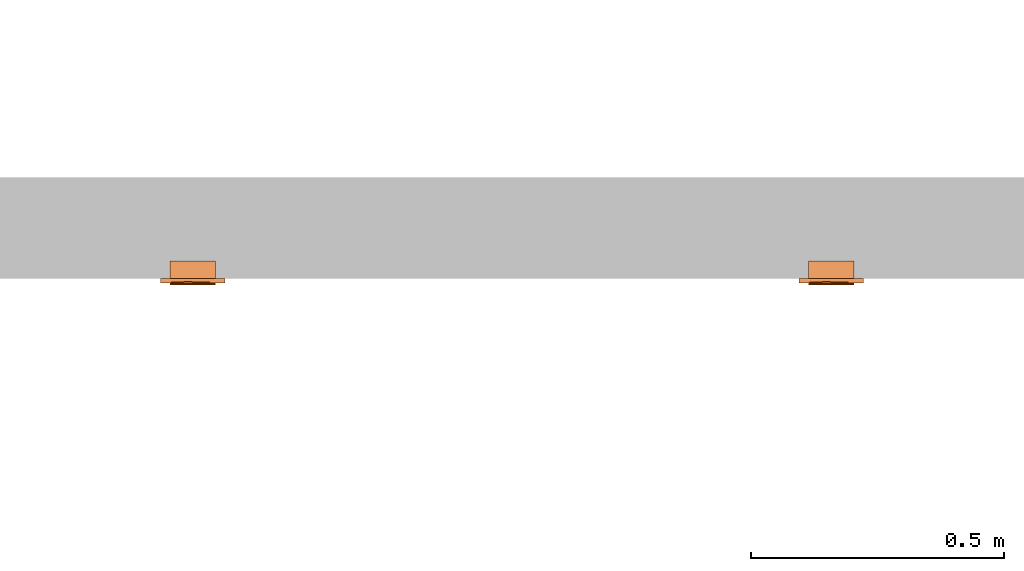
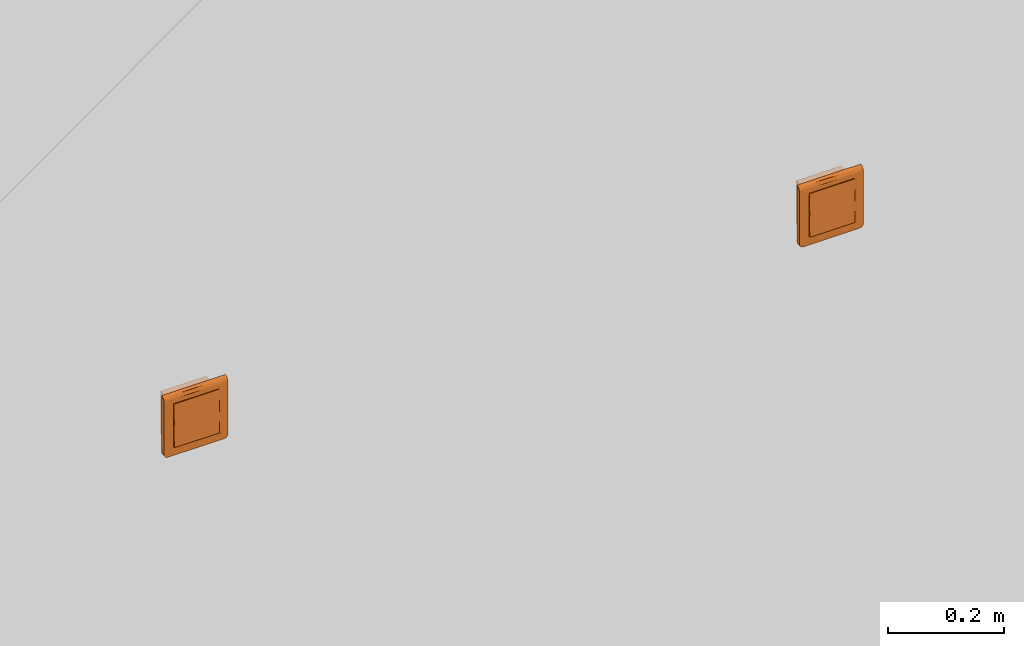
# One storey, part 177 of 197: 2 proxies.
"""IFC2X3 building model written with IfcOpenShell, lengths in metres."""

from ifc_helpers import new_model, entity, si_unit, converted_unit, direction, frame, origin, place, context, subcontext, project, spatial, faceted_brep, source, transform, mapped, material, material_list, type_object, type_shapes, element, save


model = new_model("IFC2X3")

# Units and contexts
model_context = context("Model", 3, precision=1e-05, world=origin(), true_north=direction((6.123031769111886e-17, 1.0)))
body_context = subcontext(model_context, "Body", "Model", "MODEL_VIEW")
ifc_project = project(units=[si_unit("LENGTHUNIT", "METRE"), converted_unit("PLANEANGLEUNIT", "DEGREE", entity("IfcPlaneAngleMeasure", 0.017453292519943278), si_unit("PLANEANGLEUNIT", "RADIAN"), dimensions=[0, 0, 0, 0, 0, 0, 0]), si_unit("AREAUNIT", "SQUARE_METRE")], contexts=[model_context])

# Site, building, storey
site_placement = place(None, origin())
site = spatial("IfcSite", under=ifc_project, at=site_placement, Name="Default", CompositionType="ELEMENT")
building_placement = place(site_placement, origin())
building = spatial("IfcBuilding", under=site, at=building_placement, CompositionType="ELEMENT")
storey_placement = place(building_placement, origin())
storey = spatial("IfcBuildingStorey", under=building, at=storey_placement, Name="Niveau 0", CompositionType="ELEMENT", Elevation=0.0)

# Proxies
ifc_material_1 = material(Name="<Unnamed>")
ifc_material_2 = material(Name="BETCE-DOIGT-BLANC")
ifc_material_3 = material(Name="BETCE-ENJOLIVEUR-BLANC")
ifc_material_list = material_list([ifc_material_1, ifc_material_2, ifc_material_3])
building_element_proxy_type_1 = type_object("IfcBuildingElementProxyType", Name="Tableau commande 2x4 modules encastré:7 BP + 1 SA", PredefinedType="NOTDEFINED", material=ifc_material_list)
shared_shape_1 = source(origin(), body_context, "Body", "Brep", [
    faceted_brep([(0.04499999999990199, 0.0, 0.0), (0.04499999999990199, 0.03499999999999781, 0.0), (0.022499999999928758, 0.03499999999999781, 0.0), (0.022499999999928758, 0.0, 0.0), (0.04499999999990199, 0.0, -0.045000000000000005), (0.022499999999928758, 0.0, -0.045000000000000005), (0.022499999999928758, 0.03499999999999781, -0.045000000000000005), (0.04499999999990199, 0.03499999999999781, -0.045000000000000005)], [[[0, 1, 2, 3]], [[4, 5, 6, 7]], [[1, 0, 4, 7]], [[2, 1, 7, 6]], [[3, 2, 6, 5]], [[0, 3, 5, 4]]]),
    faceted_brep([(0.04499999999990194, 0.0, 0.045000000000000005), (0.04499999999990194, 0.03499999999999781, 0.045000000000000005), (0.022499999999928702, 0.03499999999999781, 0.045000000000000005), (0.022499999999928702, 0.0, 0.045000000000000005), (0.04499999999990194, 0.0, 0.0), (0.022499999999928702, 0.0, 0.0), (0.022499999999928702, 0.03499999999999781, 0.0), (0.04499999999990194, 0.03499999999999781, 0.0)], [[[0, 1, 2, 3]], [[4, 5, 6, 7]], [[1, 0, 4, 7]], [[2, 1, 7, 6]], [[3, 2, 6, 5]], [[0, 3, 5, 4]]]),
    faceted_brep([(0.022499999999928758, 0.0, 0.0), (0.022499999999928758, 0.03499999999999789, 0.0), (0.0, 0.03499999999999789, 0.0), (0.0, 0.0, 0.0), (0.022499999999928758, 0.0, -0.045000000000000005), (0.0, 0.0, -0.045000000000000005), (0.0, 0.03499999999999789, -0.045000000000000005), (0.022499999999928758, 0.03499999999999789, -0.045000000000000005)], [[[0, 1, 2, 3]], [[4, 5, 6, 7]], [[1, 0, 4, 7]], [[2, 1, 7, 6]], [[3, 2, 6, 5]], [[0, 3, 5, 4]]]),
    faceted_brep([(0.0224999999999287, 0.0, 0.045000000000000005), (0.0224999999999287, 0.03499999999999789, 0.045000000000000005), (0.0, 0.03499999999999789, 0.045000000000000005), (0.0, 0.0, 0.045000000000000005), (0.0224999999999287, 0.0, 0.0), (0.0, 0.0, 0.0), (0.0, 0.03499999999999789, 0.0), (0.0224999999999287, 0.03499999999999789, 0.0)], [[[0, 1, 2, 3]], [[4, 5, 6, 7]], [[1, 0, 4, 7]], [[2, 1, 7, 6]], [[3, 2, 6, 5]], [[0, 3, 5, 4]]]),
    faceted_brep([(0.0, 0.0, 0.0), (0.0, 0.034999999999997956, 0.0), (-0.022500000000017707, 0.034999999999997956, 0.0), (-0.022500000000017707, 0.0, 0.0), (0.0, 0.0, -0.045000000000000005), (-0.022500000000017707, 0.0, -0.045000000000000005), (-0.022500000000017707, 0.034999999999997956, -0.045000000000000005), (0.0, 0.034999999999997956, -0.045000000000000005)], [[[0, 1, 2, 3]], [[4, 5, 6, 7]], [[1, 0, 4, 7]], [[2, 1, 7, 6]], [[3, 2, 6, 5]], [[0, 3, 5, 4]]]),
    faceted_brep([(0.0, 0.0, 0.045000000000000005), (0.0, 0.034999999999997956, 0.045000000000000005), (-0.022500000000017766, 0.034999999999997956, 0.045000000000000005), (-0.022500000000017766, 0.0, 0.045000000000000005), (0.0, 0.0, 0.0), (-0.022500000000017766, 0.0, 0.0), (-0.022500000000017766, 0.034999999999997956, 0.0), (0.0, 0.034999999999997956, 0.0)], [[[0, 1, 2, 3]], [[4, 5, 6, 7]], [[1, 0, 4, 7]], [[2, 1, 7, 6]], [[3, 2, 6, 5]], [[0, 3, 5, 4]]]),
    faceted_brep([(-0.02250000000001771, 0.0, 0.0), (-0.02250000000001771, 0.034999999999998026, 0.0), (-0.044999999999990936, 0.034999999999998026, 0.0), (-0.044999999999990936, 0.0, 0.0), (-0.02250000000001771, 0.0, -0.045000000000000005), (-0.044999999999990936, 0.0, -0.045000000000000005), (-0.044999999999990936, 0.034999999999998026, -0.045000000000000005), (-0.02250000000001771, 0.034999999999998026, -0.045000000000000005)], [[[0, 1, 2, 3]], [[4, 5, 6, 7]], [[1, 0, 4, 7]], [[2, 1, 7, 6]], [[3, 2, 6, 5]], [[0, 3, 5, 4]]]),
    faceted_brep([(-0.022500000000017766, 0.0, 0.045000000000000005), (-0.022500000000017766, 0.034999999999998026, 0.045000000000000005), (-0.044999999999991, 0.034999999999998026, 0.045000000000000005), (-0.044999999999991, 0.0, 0.045000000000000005), (-0.022500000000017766, 0.0, 0.0), (-0.044999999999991, 0.0, 0.0), (-0.044999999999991, 0.034999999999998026, 0.0), (-0.022500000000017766, 0.034999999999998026, 0.0)], [[[0, 1, 2, 3]], [[4, 5, 6, 7]], [[1, 0, 4, 7]], [[2, 1, 7, 6]], [[3, 2, 6, 5]], [[0, 3, 5, 4]]]),
    faceted_brep([(0.022499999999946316, 0.0, -0.045000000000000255), (0.022499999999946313, 0.0, 0.0), (0.04499999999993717, 0.0, 0.0), (0.04499999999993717, 0.0, -0.045000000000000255), (0.022499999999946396, -0.012750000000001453, -0.045000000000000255), (0.022499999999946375, -0.010500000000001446, 0.0), (0.044999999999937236, -0.010500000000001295, 0.0), (0.04499999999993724, -0.012750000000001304, -0.045000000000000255)], [[[0, 1, 2, 3]], [[1, 0, 4, 5]], [[2, 1, 5, 6]], [[3, 2, 6, 7]], [[0, 3, 7, 4]], [[5, 4, 7, 6]]]),
    faceted_brep([(0.0, 0.0, -0.04500000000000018), (0.0, 0.0, 0.0), (0.022499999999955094, 0.0, 0.0), (0.022499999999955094, 0.0, -0.04500000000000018), (0.0, -0.012750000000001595, -0.04500000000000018), (0.0, -0.010500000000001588, 0.0), (0.022499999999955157, -0.01050000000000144, 0.0), (0.022499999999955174, -0.012750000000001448, -0.04500000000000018)], [[[0, 1, 2, 3]], [[1, 0, 4, 5]], [[2, 1, 5, 6]], [[3, 2, 6, 7]], [[0, 3, 7, 4]], [[5, 4, 7, 6]]]),
    faceted_brep([(-0.022500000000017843, 0.0, -0.0450000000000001), (-0.022500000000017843, 0.0, 0.0), (0.0, 0.0, 0.0), (0.0, 0.0, -0.0450000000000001), (-0.02250000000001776, -0.012750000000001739, -0.0450000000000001), (-0.022500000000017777, -0.010500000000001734, 0.0), (0.0, -0.010500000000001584, 0.0), (0.0, -0.012750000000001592, -0.0450000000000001)], [[[0, 1, 2, 3]], [[1, 0, 4, 5]], [[2, 1, 5, 6]], [[3, 2, 6, 7]], [[0, 3, 7, 4]], [[5, 4, 7, 6]]]),
    faceted_brep([(-0.04499999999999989, 0.0, -0.045000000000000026), (-0.04499999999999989, 0.0, 0.0), (-0.022500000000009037, 0.0, 0.0), (-0.022500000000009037, 0.0, -0.045000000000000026), (-0.04499999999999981, -0.012750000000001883, -0.045000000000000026), (-0.04499999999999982, -0.010500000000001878, 0.0), (-0.022500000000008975, -0.01050000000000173, 0.0), (-0.022500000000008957, -0.012750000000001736, -0.045000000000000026)], [[[0, 1, 2, 3]], [[1, 0, 4, 5]], [[2, 1, 5, 6]], [[3, 2, 6, 7]], [[0, 3, 7, 4]], [[5, 4, 7, 6]]]),
    faceted_brep([(0.02249999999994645, -0.010500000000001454, 0.04499999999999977), (0.022499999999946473, -0.012750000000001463, 0.0), (0.04499999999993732, -0.012750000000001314, 0.0), (0.044999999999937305, -0.010500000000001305, 0.04499999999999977), (0.022499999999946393, 0.0, 0.0), (0.02249999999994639, 0.0, 0.04499999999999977), (0.04499999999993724, 0.0, 0.04499999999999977), (0.04499999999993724, 0.0, 0.0)], [[[0, 1, 2, 3]], [[4, 5, 6, 7]], [[5, 4, 1, 0]], [[6, 5, 0, 3]], [[7, 6, 3, 2]], [[4, 7, 2, 1]]]),
    faceted_brep([(0.0, -0.010500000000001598, 0.044999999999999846), (0.0, -0.012750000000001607, 0.0), (0.02249999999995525, -0.012750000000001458, 0.0), (0.022499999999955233, -0.010500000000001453, 0.044999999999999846), (0.0, 0.0, 0.0), (0.0, 0.0, 0.044999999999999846), (0.02249999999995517, 0.0, 0.04499999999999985), (0.02249999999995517, 0.0, 0.0)], [[[0, 1, 2, 3]], [[4, 5, 6, 7]], [[5, 4, 1, 0]], [[6, 5, 0, 3]], [[7, 6, 3, 2]], [[4, 7, 2, 1]]]),
    faceted_brep([(-0.0225000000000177, -0.010500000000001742, 0.04499999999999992), (-0.022500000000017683, -0.01275000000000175, 0.0), (0.0, -0.012750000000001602, 0.0), (0.0, -0.010500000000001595, 0.04499999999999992), (-0.022500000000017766, 0.0, 0.0), (-0.022500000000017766, 0.0, 0.04499999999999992), (0.0, 0.0, 0.04499999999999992), (0.0, 0.0, 0.0)], [[[0, 1, 2, 3]], [[4, 5, 6, 7]], [[5, 4, 1, 0]], [[6, 5, 0, 3]], [[7, 6, 3, 2]], [[4, 7, 2, 1]]]),
    faceted_brep([(-0.044999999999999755, -0.010500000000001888, 0.045), (-0.044999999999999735, -0.012750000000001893, 0.0), (-0.02250000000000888, -0.012750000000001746, 0.0), (-0.0225000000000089, -0.010500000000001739, 0.045), (-0.04499999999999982, 0.0, 0.0), (-0.04499999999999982, 0.0, 0.045), (-0.022500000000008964, 0.0, 0.045000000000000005), (-0.022500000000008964, 0.0, 0.0)], [[[0, 1, 2, 3]], [[4, 5, 6, 7]], [[5, 4, 1, 0]], [[6, 5, 0, 3]], [[7, 6, 3, 2]], [[4, 7, 2, 1]]]),
    faceted_brep([(0.06350000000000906, -0.009000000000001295, -0.055500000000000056), (0.06350000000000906, -0.009000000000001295, 0.05450000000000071), (0.045000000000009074, -0.00900000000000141, -0.045000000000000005), (0.055500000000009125, -0.009000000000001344, -0.06350000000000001), (0.057570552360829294, -0.009000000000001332, -0.06322740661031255), (0.06322740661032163, -0.009000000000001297, -0.05757055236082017), (0.04500000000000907, -0.00900000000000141, 0.045), (-0.044999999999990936, -0.00900000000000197, 0.045000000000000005), (-0.01112442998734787, -0.009000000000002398, 0.054500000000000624), (-0.06349999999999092, -0.009000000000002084, 0.05450000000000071), (-0.044999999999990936, -0.00900000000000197, -0.045000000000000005), (-0.06349999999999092, -0.009000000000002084, -0.05550000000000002), (-0.055499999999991, -0.009000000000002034, -0.06350000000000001), (-0.0575705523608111, -0.009000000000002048, -0.06322740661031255), (-0.06322740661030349, -0.009000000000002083, -0.05757055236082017), (-0.05949999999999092, -0.00900000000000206, -0.062428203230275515), (-0.062428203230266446, -0.009000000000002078, -0.05950000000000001), (-0.06115685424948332, -0.00900000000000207, -0.06115685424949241), (0.059500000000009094, -0.00900000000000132, -0.062428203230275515), (0.062428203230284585, -0.009000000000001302, -0.05949999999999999), (0.06115685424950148, -0.009000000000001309, -0.061156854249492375), (-0.063499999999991, 0.0, -0.05550000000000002), (-0.063499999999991, 0.0, 0.06350000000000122), (-0.044999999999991, 0.0, 0.045000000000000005), (-0.044999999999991, 0.0, -0.045000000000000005), (-0.055499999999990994, 0.0, -0.06350000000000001), (-0.06322740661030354, 0.0, -0.05757055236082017), (0.045000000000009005, 0.0, 0.045000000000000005), (0.011124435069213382, 0.0, 0.06350000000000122), (0.06350000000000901, 0.0, 0.0635), (0.06350000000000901, 0.0, -0.05550000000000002), (0.045000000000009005, 0.0, -0.045000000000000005), (0.05550000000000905, 0.0, -0.06350000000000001), (0.06322740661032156, 0.0, -0.05757055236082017), (0.057570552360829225, 0.0, -0.06322740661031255), (0.06242820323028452, 0.0, -0.05949999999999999), (0.05950000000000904, 0.0, -0.062428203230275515), (0.06115685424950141, 0.0, -0.061156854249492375), (-0.05757055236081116, 0.0, -0.06322740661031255), (-0.0624282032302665, 0.0, -0.05950000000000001), (-0.059499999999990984, 0.0, -0.062428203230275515), (-0.06115685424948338, 0.0, -0.06115685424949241), (0.06350000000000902, -0.00232937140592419, 0.06319333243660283), (0.06350000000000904, -0.004500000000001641, 0.06229422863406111), (0.06350000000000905, -0.006363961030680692, 0.06086396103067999), (0.06350000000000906, -0.007794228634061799, 0.05900000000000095), (0.06350000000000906, -0.008693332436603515, 0.056829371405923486), (-0.06349999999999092, -0.00869333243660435, 0.0568293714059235), (-0.06349999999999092, -0.007794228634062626, 0.059000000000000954), (-0.06349999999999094, -0.006363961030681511, 0.06086396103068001), (-0.06349999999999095, -0.004500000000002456, 0.062294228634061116), (-0.06349999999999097, -0.002329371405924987, 0.06319333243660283), (-0.010857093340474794, -0.006120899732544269, 0.06109807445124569)], [[[0, 1, 2]], [[3, 0, 2]], [[0, 3, 4]], [[5, 0, 4]], [[2, 1, 6]], [[1, 7, 6]], [[7, 1, 8]], [[7, 8, 9]], [[10, 7, 9]], [[11, 10, 9]], [[12, 10, 11]], [[12, 11, 13]], [[13, 11, 14]], [[15, 13, 14]], [[16, 15, 14]], [[15, 16, 17]], [[10, 12, 3]], [[2, 10, 3]], [[5, 4, 18]], [[5, 18, 19]], [[20, 19, 18]], [[21, 22, 23]], [[24, 21, 23]], [[25, 21, 24]], [[26, 21, 25]], [[22, 27, 23]], [[27, 22, 28]], [[27, 28, 29]], [[30, 27, 29]], [[31, 27, 30]], [[32, 31, 30]], [[32, 30, 33]], [[32, 33, 34]], [[33, 35, 34]], [[35, 36, 34]], [[36, 35, 37]], [[31, 32, 25]], [[26, 25, 38]], [[24, 31, 25]], [[39, 26, 38]], [[39, 38, 40]], [[41, 39, 40]], [[1, 0, 30, 29, 42, 43, 44, 45, 46]], [[33, 30, 0, 5]], [[35, 33, 5, 19]], [[37, 35, 19, 20]], [[36, 37, 20, 18]], [[34, 36, 18, 4]], [[32, 34, 4, 3]], [[25, 32, 3, 12]], [[38, 25, 12, 13]], [[40, 38, 13, 15]], [[41, 40, 15, 17]], [[39, 41, 17, 16]], [[26, 39, 16, 14]], [[21, 26, 14, 11]], [[22, 21, 11, 9, 47, 48, 49, 50, 51]], [[24, 23, 7, 10]], [[31, 24, 10, 2]], [[27, 31, 2, 6]], [[23, 27, 6, 7]], [[52, 8, 45]], [[47, 9, 8]], [[1, 46, 8]], [[44, 52, 45]], [[46, 45, 8]], [[50, 52, 51]], [[48, 47, 8]], [[28, 52, 43]], [[48, 52, 49]], [[42, 29, 28]], [[28, 22, 51]], [[48, 8, 52]], [[28, 43, 42]], [[44, 43, 52]], [[52, 50, 49]], [[52, 28, 51]]]),
])
type_shapes(building_element_proxy_type_1, [shared_shape_1])
proxy_1_placement = place(storey_placement, frame((-356.15477966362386, 122.781355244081, 1.1)))
element("IfcBuildingElementProxy", 1, at=proxy_1_placement, inside=storey, type_object=building_element_proxy_type_1, material=ifc_material_list, Name="Tableau commande 2x4 modules encastré:7 BP + 1 SA", ObjectType="Tableau commande 2x4 modules encastré:7 BP + 1 SA", context=body_context, shape_type="MappedRepresentation", body=[
    mapped(shared_shape_1, transform((0.0, 0.0, 0.0), scale=1.0)),
])
building_element_proxy_type_2 = type_object("IfcBuildingElementProxyType", Name="Tableau commande 2x4 modules encastré:1 BP + 7 VV", PredefinedType="NOTDEFINED", material=ifc_material_list)
shared_shape_2 = source(origin(), body_context, "Body", "Brep", [
    faceted_brep([(0.04499999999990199, 0.0, 0.0), (0.04499999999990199, 0.03499999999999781, 0.0), (0.022499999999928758, 0.03499999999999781, 0.0), (0.022499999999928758, 0.0, 0.0), (0.04499999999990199, 0.0, -0.045000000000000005), (0.022499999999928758, 0.0, -0.045000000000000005), (0.022499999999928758, 0.03499999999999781, -0.045000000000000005), (0.04499999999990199, 0.03499999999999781, -0.045000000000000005)], [[[0, 1, 2, 3]], [[4, 5, 6, 7]], [[1, 0, 4, 7]], [[2, 1, 7, 6]], [[3, 2, 6, 5]], [[0, 3, 5, 4]]]),
    faceted_brep([(0.04499999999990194, 0.0, 0.045000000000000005), (0.04499999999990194, 0.03499999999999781, 0.045000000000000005), (0.022499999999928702, 0.03499999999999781, 0.045000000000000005), (0.022499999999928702, 0.0, 0.045000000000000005), (0.04499999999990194, 0.0, 0.0), (0.022499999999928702, 0.0, 0.0), (0.022499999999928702, 0.03499999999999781, 0.0), (0.04499999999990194, 0.03499999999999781, 0.0)], [[[0, 1, 2, 3]], [[4, 5, 6, 7]], [[1, 0, 4, 7]], [[2, 1, 7, 6]], [[3, 2, 6, 5]], [[0, 3, 5, 4]]]),
    faceted_brep([(0.022499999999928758, 0.0, 0.0), (0.022499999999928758, 0.03499999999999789, 0.0), (0.0, 0.03499999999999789, 0.0), (0.0, 0.0, 0.0), (0.022499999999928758, 0.0, -0.045000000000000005), (0.0, 0.0, -0.045000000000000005), (0.0, 0.03499999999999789, -0.045000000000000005), (0.022499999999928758, 0.03499999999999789, -0.045000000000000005)], [[[0, 1, 2, 3]], [[4, 5, 6, 7]], [[1, 0, 4, 7]], [[2, 1, 7, 6]], [[3, 2, 6, 5]], [[0, 3, 5, 4]]]),
    faceted_brep([(0.0224999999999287, 0.0, 0.045000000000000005), (0.0224999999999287, 0.03499999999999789, 0.045000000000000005), (0.0, 0.03499999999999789, 0.045000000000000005), (0.0, 0.0, 0.045000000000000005), (0.0224999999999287, 0.0, 0.0), (0.0, 0.0, 0.0), (0.0, 0.03499999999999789, 0.0), (0.0224999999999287, 0.03499999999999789, 0.0)], [[[0, 1, 2, 3]], [[4, 5, 6, 7]], [[1, 0, 4, 7]], [[2, 1, 7, 6]], [[3, 2, 6, 5]], [[0, 3, 5, 4]]]),
    faceted_brep([(0.0, 0.0, 0.0), (0.0, 0.034999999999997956, 0.0), (-0.022500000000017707, 0.034999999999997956, 0.0), (-0.022500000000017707, 0.0, 0.0), (0.0, 0.0, -0.045000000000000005), (-0.022500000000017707, 0.0, -0.045000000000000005), (-0.022500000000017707, 0.034999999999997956, -0.045000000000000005), (0.0, 0.034999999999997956, -0.045000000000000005)], [[[0, 1, 2, 3]], [[4, 5, 6, 7]], [[1, 0, 4, 7]], [[2, 1, 7, 6]], [[3, 2, 6, 5]], [[0, 3, 5, 4]]]),
    faceted_brep([(0.0, 0.0, 0.045000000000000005), (0.0, 0.034999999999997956, 0.045000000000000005), (-0.022500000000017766, 0.034999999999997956, 0.045000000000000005), (-0.022500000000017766, 0.0, 0.045000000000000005), (0.0, 0.0, 0.0), (-0.022500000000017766, 0.0, 0.0), (-0.022500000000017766, 0.034999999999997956, 0.0), (0.0, 0.034999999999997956, 0.0)], [[[0, 1, 2, 3]], [[4, 5, 6, 7]], [[1, 0, 4, 7]], [[2, 1, 7, 6]], [[3, 2, 6, 5]], [[0, 3, 5, 4]]]),
    faceted_brep([(-0.02250000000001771, 0.0, 0.0), (-0.02250000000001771, 0.034999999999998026, 0.0), (-0.044999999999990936, 0.034999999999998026, 0.0), (-0.044999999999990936, 0.0, 0.0), (-0.02250000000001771, 0.0, -0.045000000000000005), (-0.044999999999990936, 0.0, -0.045000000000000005), (-0.044999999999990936, 0.034999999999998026, -0.045000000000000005), (-0.02250000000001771, 0.034999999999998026, -0.045000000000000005)], [[[0, 1, 2, 3]], [[4, 5, 6, 7]], [[1, 0, 4, 7]], [[2, 1, 7, 6]], [[3, 2, 6, 5]], [[0, 3, 5, 4]]]),
    faceted_brep([(-0.022500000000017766, 0.0, 0.045000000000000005), (-0.022500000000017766, 0.034999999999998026, 0.045000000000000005), (-0.044999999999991, 0.034999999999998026, 0.045000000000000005), (-0.044999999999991, 0.0, 0.045000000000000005), (-0.022500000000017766, 0.0, 0.0), (-0.044999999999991, 0.0, 0.0), (-0.044999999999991, 0.034999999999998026, 0.0), (-0.022500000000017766, 0.034999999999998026, 0.0)], [[[0, 1, 2, 3]], [[4, 5, 6, 7]], [[1, 0, 4, 7]], [[2, 1, 7, 6]], [[3, 2, 6, 5]], [[0, 3, 5, 4]]]),
    faceted_brep([(0.022499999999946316, 0.0, -0.045000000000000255), (0.022499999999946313, 0.0, 0.0), (0.04499999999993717, 0.0, 0.0), (0.04499999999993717, 0.0, -0.045000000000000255), (0.022499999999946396, -0.012750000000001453, -0.045000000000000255), (0.022499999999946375, -0.010500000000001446, 0.0), (0.044999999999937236, -0.010500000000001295, 0.0), (0.04499999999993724, -0.012750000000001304, -0.045000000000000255)], [[[0, 1, 2, 3]], [[1, 0, 4, 5]], [[2, 1, 5, 6]], [[3, 2, 6, 7]], [[0, 3, 7, 4]], [[5, 4, 7, 6]]]),
    faceted_brep([(0.0, 0.0, -0.04500000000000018), (0.0, 0.0, 0.0), (0.022499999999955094, 0.0, 0.0), (0.022499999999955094, 0.0, -0.04500000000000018), (0.0, -0.012750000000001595, -0.04500000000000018), (0.0, -0.010500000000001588, 0.0), (0.022499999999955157, -0.01050000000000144, 0.0), (0.022499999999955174, -0.012750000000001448, -0.04500000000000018)], [[[0, 1, 2, 3]], [[1, 0, 4, 5]], [[2, 1, 5, 6]], [[3, 2, 6, 7]], [[0, 3, 7, 4]], [[5, 4, 7, 6]]]),
    faceted_brep([(-0.022500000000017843, 0.0, -0.0450000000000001), (-0.022500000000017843, 0.0, 0.0), (0.0, 0.0, 0.0), (0.0, 0.0, -0.0450000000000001), (-0.02250000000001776, -0.012750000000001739, -0.0450000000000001), (-0.022500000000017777, -0.010500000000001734, 0.0), (0.0, -0.010500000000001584, 0.0), (0.0, -0.012750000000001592, -0.0450000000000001)], [[[0, 1, 2, 3]], [[1, 0, 4, 5]], [[2, 1, 5, 6]], [[3, 2, 6, 7]], [[0, 3, 7, 4]], [[5, 4, 7, 6]]]),
    faceted_brep([(-0.04499999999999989, 0.0, -0.045000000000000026), (-0.04499999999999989, 0.0, 0.0), (-0.022500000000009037, 0.0, 0.0), (-0.022500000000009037, 0.0, -0.045000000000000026), (-0.04499999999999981, -0.012750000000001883, -0.045000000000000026), (-0.04499999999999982, -0.010500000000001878, 0.0), (-0.022500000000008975, -0.01050000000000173, 0.0), (-0.022500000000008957, -0.012750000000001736, -0.045000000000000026)], [[[0, 1, 2, 3]], [[1, 0, 4, 5]], [[2, 1, 5, 6]], [[3, 2, 6, 7]], [[0, 3, 7, 4]], [[5, 4, 7, 6]]]),
    faceted_brep([(0.02249999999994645, -0.010500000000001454, 0.04499999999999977), (0.022499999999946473, -0.012750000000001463, 0.0), (0.04499999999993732, -0.012750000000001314, 0.0), (0.044999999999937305, -0.010500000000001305, 0.04499999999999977), (0.022499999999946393, 0.0, 0.0), (0.02249999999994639, 0.0, 0.04499999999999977), (0.04499999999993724, 0.0, 0.04499999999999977), (0.04499999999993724, 0.0, 0.0)], [[[0, 1, 2, 3]], [[4, 5, 6, 7]], [[5, 4, 1, 0]], [[6, 5, 0, 3]], [[7, 6, 3, 2]], [[4, 7, 2, 1]]]),
    faceted_brep([(0.0, -0.010500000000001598, 0.044999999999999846), (0.0, -0.012750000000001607, 0.0), (0.02249999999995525, -0.012750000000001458, 0.0), (0.022499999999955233, -0.010500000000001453, 0.044999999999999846), (0.0, 0.0, 0.0), (0.0, 0.0, 0.044999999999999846), (0.02249999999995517, 0.0, 0.04499999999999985), (0.02249999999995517, 0.0, 0.0)], [[[0, 1, 2, 3]], [[4, 5, 6, 7]], [[5, 4, 1, 0]], [[6, 5, 0, 3]], [[7, 6, 3, 2]], [[4, 7, 2, 1]]]),
    faceted_brep([(-0.0225000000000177, -0.010500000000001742, 0.04499999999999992), (-0.022500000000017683, -0.01275000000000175, 0.0), (0.0, -0.012750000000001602, 0.0), (0.0, -0.010500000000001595, 0.04499999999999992), (-0.022500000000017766, 0.0, 0.0), (-0.022500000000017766, 0.0, 0.04499999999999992), (0.0, 0.0, 0.04499999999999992), (0.0, 0.0, 0.0)], [[[0, 1, 2, 3]], [[4, 5, 6, 7]], [[5, 4, 1, 0]], [[6, 5, 0, 3]], [[7, 6, 3, 2]], [[4, 7, 2, 1]]]),
    faceted_brep([(-0.044999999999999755, -0.010500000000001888, 0.045), (-0.044999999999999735, -0.012750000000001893, 0.0), (-0.02250000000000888, -0.012750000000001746, 0.0), (-0.0225000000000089, -0.010500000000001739, 0.045), (-0.04499999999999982, 0.0, 0.0), (-0.04499999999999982, 0.0, 0.045), (-0.022500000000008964, 0.0, 0.045000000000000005), (-0.022500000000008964, 0.0, 0.0)], [[[0, 1, 2, 3]], [[4, 5, 6, 7]], [[5, 4, 1, 0]], [[6, 5, 0, 3]], [[7, 6, 3, 2]], [[4, 7, 2, 1]]]),
    faceted_brep([(0.06350000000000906, -0.009000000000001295, -0.055500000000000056), (0.06350000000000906, -0.009000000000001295, 0.05450000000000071), (0.045000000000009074, -0.00900000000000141, -0.045000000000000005), (0.055500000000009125, -0.009000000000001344, -0.06350000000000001), (0.057570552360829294, -0.009000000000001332, -0.06322740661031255), (0.06322740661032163, -0.009000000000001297, -0.05757055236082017), (0.04500000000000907, -0.00900000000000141, 0.045), (-0.044999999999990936, -0.00900000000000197, 0.045000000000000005), (-0.01112442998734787, -0.009000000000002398, 0.054500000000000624), (-0.06349999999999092, -0.009000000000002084, 0.05450000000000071), (-0.044999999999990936, -0.00900000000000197, -0.045000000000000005), (-0.06349999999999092, -0.009000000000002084, -0.05550000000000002), (-0.055499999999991, -0.009000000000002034, -0.06350000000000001), (-0.0575705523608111, -0.009000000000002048, -0.06322740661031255), (-0.06322740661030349, -0.009000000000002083, -0.05757055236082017), (-0.05949999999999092, -0.00900000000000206, -0.062428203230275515), (-0.062428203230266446, -0.009000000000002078, -0.05950000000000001), (-0.06115685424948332, -0.00900000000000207, -0.06115685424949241), (0.059500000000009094, -0.00900000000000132, -0.062428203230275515), (0.062428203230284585, -0.009000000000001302, -0.05949999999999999), (0.06115685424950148, -0.009000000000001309, -0.061156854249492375), (-0.063499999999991, 0.0, -0.05550000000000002), (-0.063499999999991, 0.0, 0.06350000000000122), (-0.044999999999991, 0.0, 0.045000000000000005), (-0.044999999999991, 0.0, -0.045000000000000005), (-0.055499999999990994, 0.0, -0.06350000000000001), (-0.06322740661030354, 0.0, -0.05757055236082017), (0.045000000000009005, 0.0, 0.045000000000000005), (0.011124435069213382, 0.0, 0.06350000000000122), (0.06350000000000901, 0.0, 0.0635), (0.06350000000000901, 0.0, -0.05550000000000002), (0.045000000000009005, 0.0, -0.045000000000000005), (0.05550000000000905, 0.0, -0.06350000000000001), (0.06322740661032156, 0.0, -0.05757055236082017), (0.057570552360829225, 0.0, -0.06322740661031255), (0.06242820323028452, 0.0, -0.05949999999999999), (0.05950000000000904, 0.0, -0.062428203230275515), (0.06115685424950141, 0.0, -0.061156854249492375), (-0.05757055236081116, 0.0, -0.06322740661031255), (-0.0624282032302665, 0.0, -0.05950000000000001), (-0.059499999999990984, 0.0, -0.062428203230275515), (-0.06115685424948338, 0.0, -0.06115685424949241), (0.06350000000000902, -0.00232937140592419, 0.06319333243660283), (0.06350000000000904, -0.004500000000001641, 0.06229422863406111), (0.06350000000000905, -0.006363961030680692, 0.06086396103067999), (0.06350000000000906, -0.007794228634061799, 0.05900000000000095), (0.06350000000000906, -0.008693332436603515, 0.056829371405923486), (-0.06349999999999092, -0.00869333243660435, 0.0568293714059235), (-0.06349999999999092, -0.007794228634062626, 0.059000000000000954), (-0.06349999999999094, -0.006363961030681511, 0.06086396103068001), (-0.06349999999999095, -0.004500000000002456, 0.062294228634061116), (-0.06349999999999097, -0.002329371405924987, 0.06319333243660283), (-0.010857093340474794, -0.006120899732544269, 0.06109807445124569)], [[[0, 1, 2]], [[3, 0, 2]], [[0, 3, 4]], [[5, 0, 4]], [[2, 1, 6]], [[1, 7, 6]], [[7, 1, 8]], [[7, 8, 9]], [[10, 7, 9]], [[11, 10, 9]], [[12, 10, 11]], [[12, 11, 13]], [[13, 11, 14]], [[15, 13, 14]], [[16, 15, 14]], [[15, 16, 17]], [[10, 12, 3]], [[2, 10, 3]], [[5, 4, 18]], [[5, 18, 19]], [[20, 19, 18]], [[21, 22, 23]], [[24, 21, 23]], [[25, 21, 24]], [[26, 21, 25]], [[22, 27, 23]], [[27, 22, 28]], [[27, 28, 29]], [[30, 27, 29]], [[31, 27, 30]], [[32, 31, 30]], [[32, 30, 33]], [[32, 33, 34]], [[33, 35, 34]], [[35, 36, 34]], [[36, 35, 37]], [[31, 32, 25]], [[26, 25, 38]], [[24, 31, 25]], [[39, 26, 38]], [[39, 38, 40]], [[41, 39, 40]], [[1, 0, 30, 29, 42, 43, 44, 45, 46]], [[33, 30, 0, 5]], [[35, 33, 5, 19]], [[37, 35, 19, 20]], [[36, 37, 20, 18]], [[34, 36, 18, 4]], [[32, 34, 4, 3]], [[25, 32, 3, 12]], [[38, 25, 12, 13]], [[40, 38, 13, 15]], [[41, 40, 15, 17]], [[39, 41, 17, 16]], [[26, 39, 16, 14]], [[21, 26, 14, 11]], [[22, 21, 11, 9, 47, 48, 49, 50, 51]], [[24, 23, 7, 10]], [[31, 24, 10, 2]], [[27, 31, 2, 6]], [[23, 27, 6, 7]], [[52, 8, 45]], [[47, 9, 8]], [[1, 46, 8]], [[44, 52, 45]], [[46, 45, 8]], [[50, 52, 51]], [[48, 47, 8]], [[28, 52, 43]], [[48, 52, 49]], [[42, 29, 28]], [[28, 22, 51]], [[48, 8, 52]], [[28, 43, 42]], [[44, 43, 52]], [[52, 50, 49]], [[52, 28, 51]]]),
])
type_shapes(building_element_proxy_type_2, [shared_shape_2])
proxy_2_placement = place(storey_placement, frame((-354.89277966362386, 122.781355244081, 1.1)))
element("IfcBuildingElementProxy", 2, at=proxy_2_placement, inside=storey, type_object=building_element_proxy_type_2, material=ifc_material_list, Name="Tableau commande 2x4 modules encastré:1 BP + 7 VV", ObjectType="Tableau commande 2x4 modules encastré:1 BP + 7 VV", context=body_context, shape_type="MappedRepresentation", body=[
    mapped(shared_shape_2, transform((0.0, 0.0, 0.0), scale=1.0)),
])

save(model, "model.ifc")
